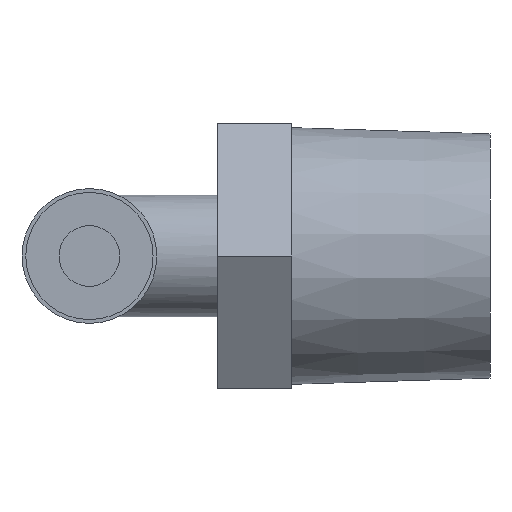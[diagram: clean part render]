
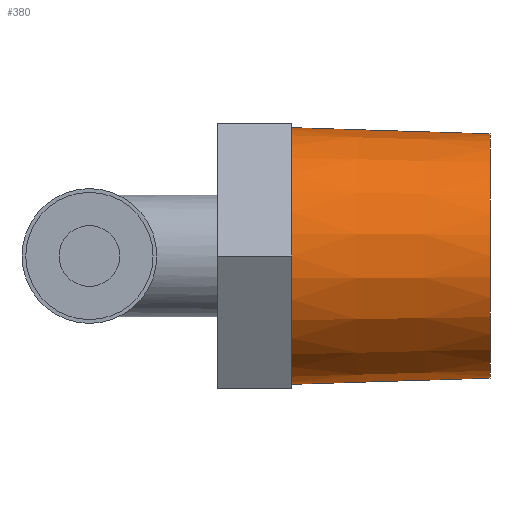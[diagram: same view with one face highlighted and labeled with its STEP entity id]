
A CAD part, left-side view. The second image highlights one B-rep face of the part: STEP entity #380.
In plain terms, the highlighted conical face has half-angle 1.788 degrees and reference radius 6.76 mm.
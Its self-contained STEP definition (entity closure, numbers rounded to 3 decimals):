
#20=CONICAL_SURFACE('',#427,6.76,0.031);
#113=ORIENTED_EDGE('',*,*,#181,.F.);
#114=ORIENTED_EDGE('',*,*,#182,.T.);
#181=EDGE_CURVE('',#216,#216,#237,.T.);
#182=EDGE_CURVE('',#217,#217,#238,.T.);
#216=VERTEX_POINT('',#640);
#217=VERTEX_POINT('',#643);
#237=CIRCLE('',#426,6.433);
#238=CIRCLE('',#428,6.76);
#268=EDGE_LOOP('',(#113));
#269=EDGE_LOOP('',(#114));
#320=FACE_BOUND('',#268,.T.);
#321=FACE_BOUND('',#269,.T.);
#380=ADVANCED_FACE('',(#320,#321),#20,.T.);
#426=AXIS2_PLACEMENT_3D('',#639,#511,#512);
#427=AXIS2_PLACEMENT_3D('',#641,#513,#514);
#428=AXIS2_PLACEMENT_3D('',#642,#515,#516);
#511=DIRECTION('',(0.,-1.,0.));
#512=DIRECTION('',(0.,0.,-1.));
#513=DIRECTION('',(0.,1.,0.));
#514=DIRECTION('',(0.,0.,1.));
#515=DIRECTION('',(0.,-1.,0.));
#516=DIRECTION('',(0.,0.,-1.));
#639=CARTESIAN_POINT('',(0.,-4.65,0.));
#640=CARTESIAN_POINT('',(0.,-4.65,-6.433));
#641=CARTESIAN_POINT('',(0.,5.8,0.));
#642=CARTESIAN_POINT('',(0.,5.8,0.));
#643=CARTESIAN_POINT('',(0.,5.8,-6.76));
